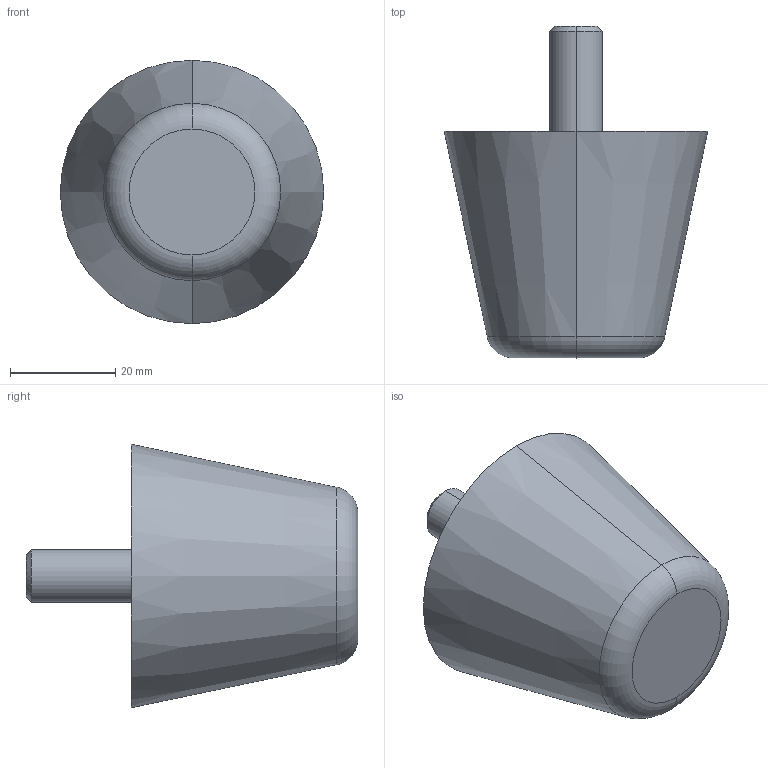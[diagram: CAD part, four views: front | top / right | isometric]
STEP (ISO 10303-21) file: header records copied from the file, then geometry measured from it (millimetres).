
FILE_DESCRIPTION (( 'STEP AP214' ), '1' );
FILE_NAME ('253-50-M10-20-70.step', '2023-03-24T07:38:41', ( '' ), ( '' ), 'SwSTEP 2.0', 'SolidWorks 2022', '' );
FILE_SCHEMA (( 'AUTOMOTIVE_DESIGN' ));
Length unit declared in the file: millimetre
Products named in the file (1): 253-50-M10-20-70
Bounding box: 50 x 62.99 x 50 mm (x, y, z)
Volume: 58910.3 mm3; surface area: 8897.3 mm2
Topology: 1 solids, 1 shells, 14 faces, 26 edges, 16 vertices
Faces by surface type: cone 6, plane 4, cylinder 2, torus 2
Entity records: 500 total; most frequent: DIRECTION 74, CARTESIAN_POINT 57, ORIENTED_EDGE 52, AXIS2_PLACEMENT_3D 33, EDGE_CURVE 26, CIRCLE 18, EDGE_LOOP 16, VERTEX_POINT 16
